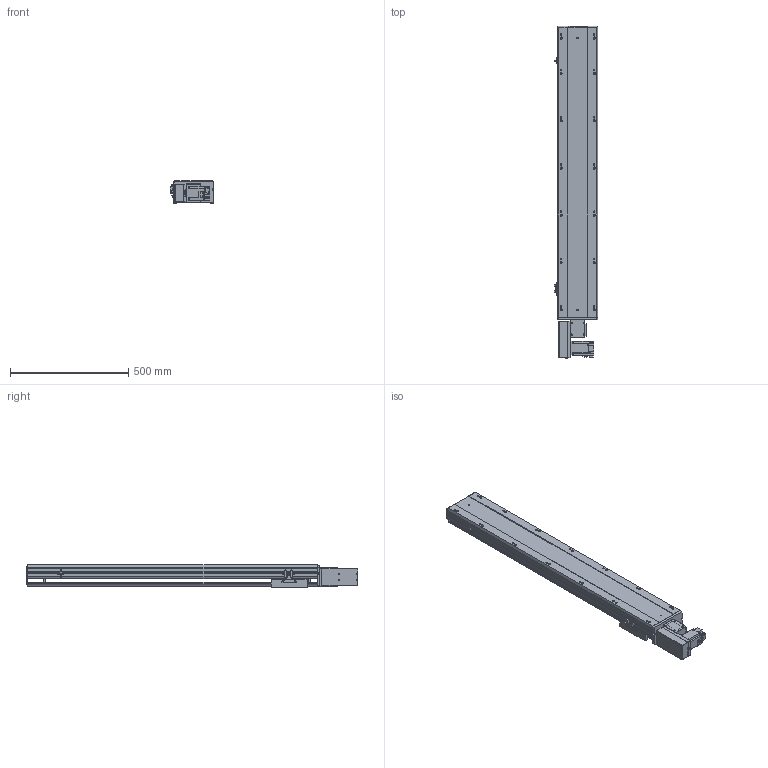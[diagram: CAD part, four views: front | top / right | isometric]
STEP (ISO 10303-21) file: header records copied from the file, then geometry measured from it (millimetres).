
FILE_DESCRIPTION (( 'STEP AP203' ), '1' );
FILE_NAME ('BTB17-L40-950-R-M40-C4.STEP', '2022-07-20T06:32:49', ( 'CXY' ), ( 'BT' ), 'SwSTEP 2.0', 'SolidWorks 2016', '' );
FILE_SCHEMA (( 'CONFIG_CONTROL_DESIGN' ));
Length unit declared in the file: millimetre
Products named in the file (11): BTB17-L-24; FS-07-T40(1); FS-08-T40; BTB17-L-菁釱_XD; BTB17-L-06; BTB17-L-23; M40; BTB17-L-01; BTB17-L-04; BTB17-L-HZ; BTB17-L40-950-R-M40-C4
Assembly tree (13 placements, depth 2):
  BTB17-L40-950-R-M40-C4
    BTB17-L-菁釱_XD
    BTB17-L-01
    BTB17-L-04  x3
    BTB17-L-06
    BTB17-L-23  x2
    BTB17-L-24
    BTB17-L-HZ
    FS-07-T40(1)
    FS-08-T40
    M40
Bounding box: 183.7 x 1404.5 x 97 mm (x, y, z)
Volume: 11350569.3 mm3; surface area: 1565661.1 mm2
Topology: 22 solids, 22 shells, 1615 faces, 4251 edges, 2696 vertices
Faces by surface type: plane 907, cylinder 524, cone 152, torus 16, bspline 16
Entity records: 41998 total; most frequent: CARTESIAN_POINT 8254, DIRECTION 6853, ORIENTED_EDGE 6654, EDGE_CURVE 3327, AXIS2_PLACEMENT_3D 2317, LINE 2219, VECTOR 2219, VERTEX_POINT 2164
